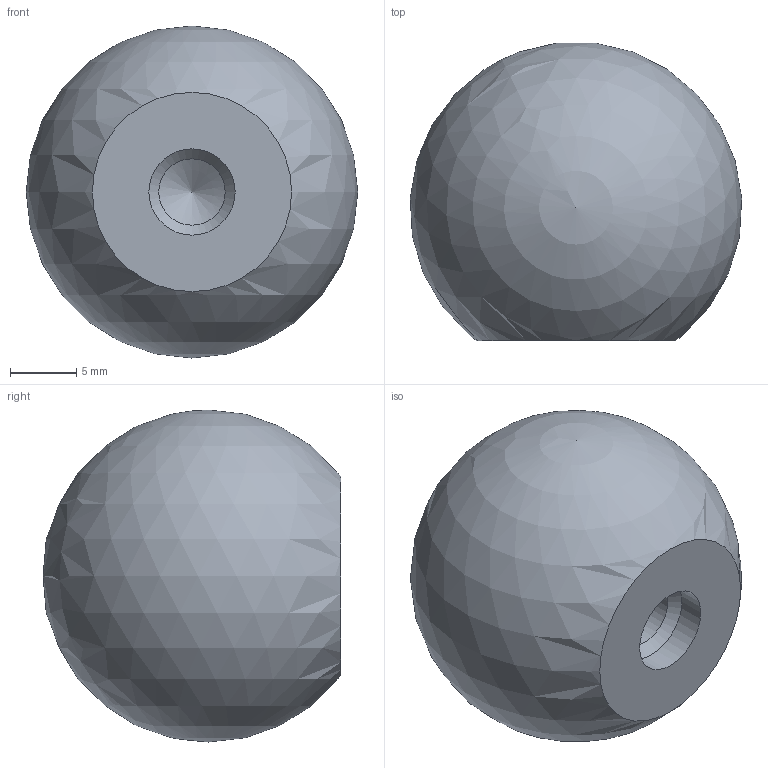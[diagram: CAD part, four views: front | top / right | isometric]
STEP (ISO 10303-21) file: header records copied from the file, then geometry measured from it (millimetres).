
FILE_DESCRIPTION (( 'STEP AP214' ), '1' );
FILE_NAME ('319-KT-25-M6-C.step', '2019-04-24T08:49:59', ( 'user' ), ( '' ), 'SwSTEP 2.0', 'SolidWorks 2019', '' );
FILE_SCHEMA (( 'AUTOMOTIVE_DESIGN' ));
Length unit declared in the file: millimetre
Products named in the file (1): 319-KT-25-M6-C
Bounding box: 24.96 x 22.42 x 25 mm (x, y, z)
Volume: 7674.7 mm3; surface area: 2138.9 mm2
Topology: 1 solids, 1 shells, 6 faces, 15 edges, 10 vertices
Faces by surface type: cone 2, cylinder 2, plane 1, sphere 1
Full cylindrical faces by diameter (mm): 5 x1, 6.5 x1
Entity records: 159 total; most frequent: DIRECTION 24, CARTESIAN_POINT 17, AXIS2_PLACEMENT_3D 12, EDGE_LOOP 10, ORIENTED_EDGE 10, FACE_OUTER_BOUND 8, ADVANCED_FACE 6, EDGE_CURVE 5
